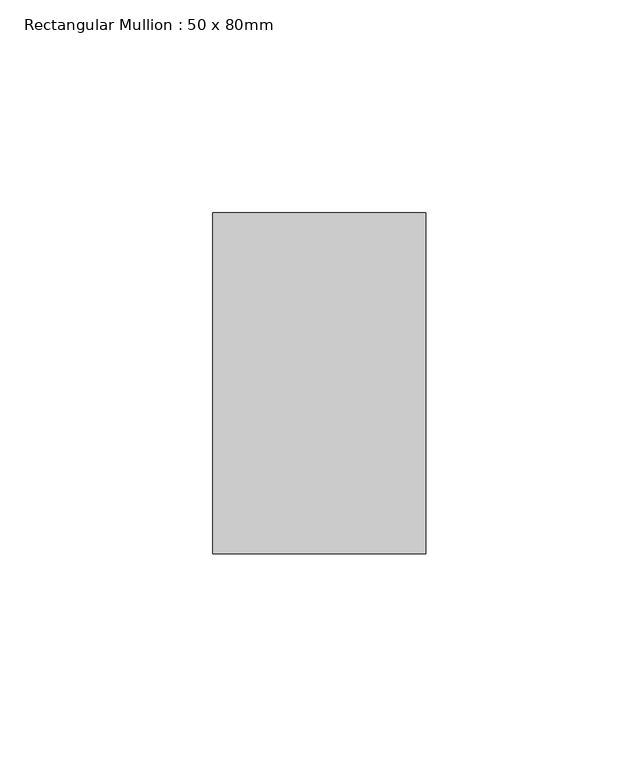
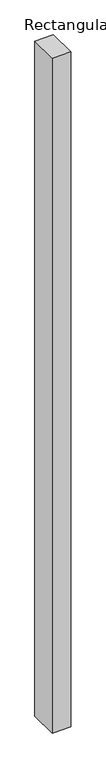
"""IFC4 building model written with IfcOpenShell, lengths in millimetres: member geometry, Rectangular Mullion : 50 x 80mm."""

from ifc_helpers import new_model, si_unit, frame, origin, place, context, project, spatial, polyline, outline, extrude, source, transform, mapped, element, save


def rectangular_mullion_50_x_80mm_cb1dbf9a(model_context):
    return source(origin(), model_context, "Body", "SweptSolid", [
        extrude(outline(polyline([(0.0, 55.0), (0.0, -25.0), (-50.0, -25.0), (-50.0, 55.0), (0.0, 55.0)])), frame((0.0, 0.0, -1920.0), z_axis=(0.0, 0.0, 1.0), x_axis=(1.0, 0.0, 0.0)), (0.0, 0.0, 1.0), 1920.0),
    ])


if __name__ == "__main__":
    model = new_model("IFC4")
    model_context = context("Model", 3, world=origin())
    ifc_project = project(units=[si_unit("LENGTHUNIT", "METRE", prefix="MILLI")], contexts=[model_context])
    site = spatial("IfcSite", under=ifc_project)
    building = spatial("IfcBuilding", under=site)
    placement = place(None, origin())
    rectangular_mullion_50_x_80mm_shape = rectangular_mullion_50_x_80mm_cb1dbf9a(model_context)
    element("IfcMember", 1, ObjectType="Rectangular Mullion : 50 x 80mm", at=placement, inside=building, context=model_context, shape_type="MappedRepresentation", body=[
        mapped(rectangular_mullion_50_x_80mm_shape, transform((0.0, 0.0, 0.0), x_axis=(1.0, 0.0, 0.0), y_axis=(0.0, 1.0, 0.0), z_axis=(0.0, 0.0, 1.0))),
    ])
    save(model, "model.ifc")
